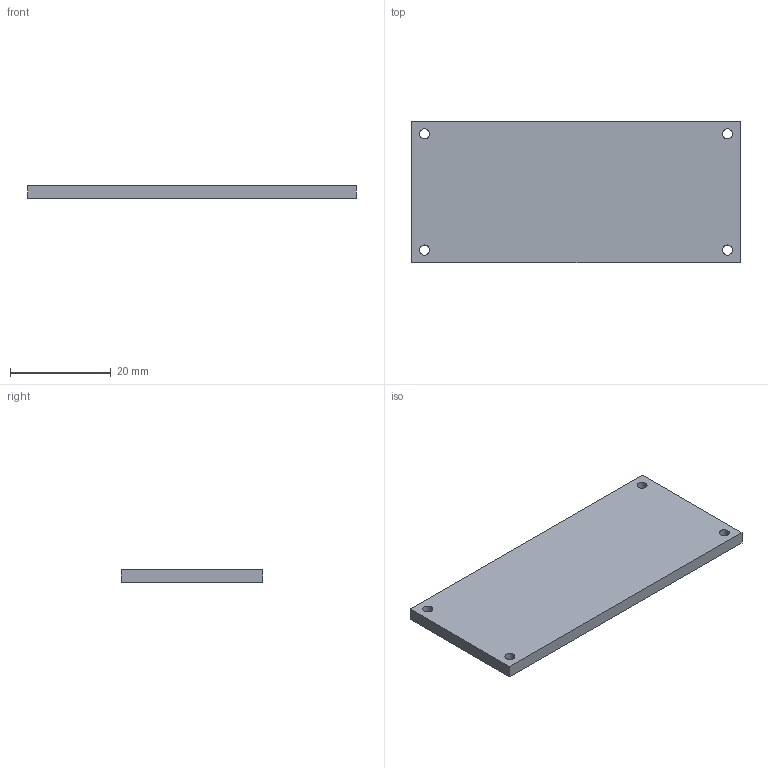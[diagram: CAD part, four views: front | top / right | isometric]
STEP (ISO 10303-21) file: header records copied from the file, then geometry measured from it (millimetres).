
FILE_DESCRIPTION(('STEP AP242 Edition 2','STEP AP242 Edition 2''CAx-IF Rec.Pracs.---Representation and Presentation of Product Manufacturing Information (PMI)---4.0---2014-10-13','STEP AP242 Edition 2''CAx-IF Rec.Pracs.---Representation and Presentation of Product Manufacturing Information (PMI)---4.0---2014-10-13''CAx-IF Rec.Pracs.---3D Tessellated Geometry---0.4---2014-09-14','STEP AP242 Edition 2''CAx-IF Rec.Pracs.---Representation and Presentation of Product Manufacturing Information (PMI)---4.0---2014-10-13''CAx-IF Rec.Pracs.---3D Tessellated Geometry---0.4---2014-09-14''2;1','STEP AP242 Edition 2''CAx-IF Rec.Pracs.---Representation and Presentation of Product Manufacturing Information (PMI)---4.0---2014-10-13''CAx-IF Rec.Pracs.---3D Tessellated Geometry---0.4---2014-09-14''2;1''CAx-IF Rec.Pracs.---User Defined Attributes---1.5---2016-08-15'),'2;1');
FILE_NAME('/vol/tmp/translate-14958899252267850940/3D_PCB_PCB_ESP32-sd-int_2026-03-29nosilk - Part 4.step','2026-03-31T16:57:27',(''),(''),'ST-DEVELOPER v20','ONSHAPE BY PTC INC, 1.212',' ');
FILE_SCHEMA(('AP242_MANAGED_MODEL_BASED_3D_ENGINEERING_MIM_LF { 1 0 10303 442 3 1 4 }'));
Length unit declared in the file: metre
Products named in the file (1): Part 4
Bounding box: 65 x 28 x 2.5 mm (x, y, z)
Volume: 4518.6 mm3; surface area: 4142.7 mm2
Topology: 1 solids, 1 shells, 10 faces, 28 edges, 20 vertices
Faces by surface type: plane 6, cylinder 4
Full cylindrical faces by diameter (mm): 2 x4
Entity records: 369 total; most frequent: DIRECTION 56, CARTESIAN_POINT 50, ORIENTED_EDGE 40, EDGE_LOOP 22, FACE_BOUND 22, AXIS2_PLACEMENT_3D 22, EDGE_CURVE 20, VERTEX_POINT 16
